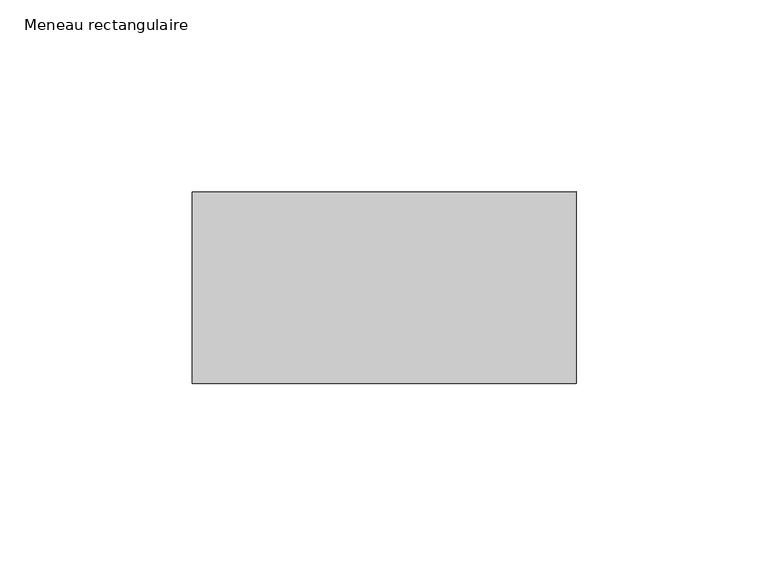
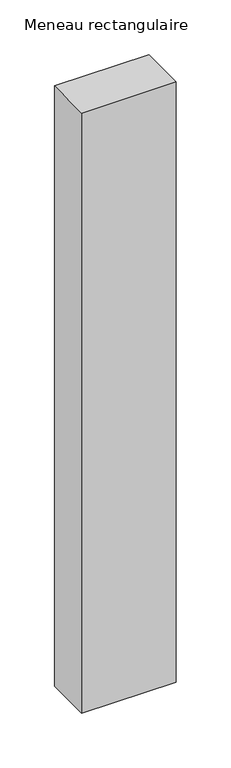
"""IFC4 building model written with IfcOpenShell, lengths in millimetres: member geometry, Meneau rectangulaire : 10x5cm aluminium laqué gris."""

from ifc_helpers import new_model, si_unit, frame, origin, place, context, project, spatial, polyline, outline, extrude, source, transform, mapped, element, save


def meneau_rectangulaire_d286e13e(model_context):
    return source(origin(), model_context, "Body", "SweptSolid", [
        extrude(outline(polyline([(0.0, 25.0), (0.0, -25.0), (-100.0, -25.0), (-100.0, 25.0), (0.0, 25.0)])), frame((0.0, 0.0, -671.2233546), z_axis=(0.0, 0.0, 1.0), x_axis=(1.0, 0.0, 0.0)), (0.0, 0.0, 1.0), 671.2233546),
    ])


if __name__ == "__main__":
    model = new_model("IFC4")
    model_context = context("Model", 3, world=origin())
    ifc_project = project(units=[si_unit("LENGTHUNIT", "METRE", prefix="MILLI")], contexts=[model_context])
    site = spatial("IfcSite", under=ifc_project)
    building = spatial("IfcBuilding", under=site)
    placement = place(None, origin())
    meneau_rectangulaire_shape = meneau_rectangulaire_d286e13e(model_context)
    element("IfcMember", 1, ObjectType="Meneau rectangulaire : 10x5cm aluminium laqué gris", at=placement, inside=building, context=model_context, shape_type="MappedRepresentation", body=[
        mapped(meneau_rectangulaire_shape, transform((0.0, 0.0, 0.0), x_axis=(1.0, 0.0, 0.0), y_axis=(0.0, 1.0, 0.0), z_axis=(0.0, 0.0, 1.0))),
    ])
    save(model, "model.ifc")
